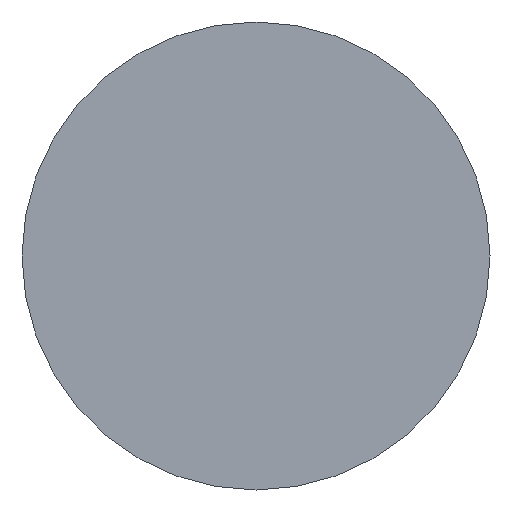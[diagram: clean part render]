
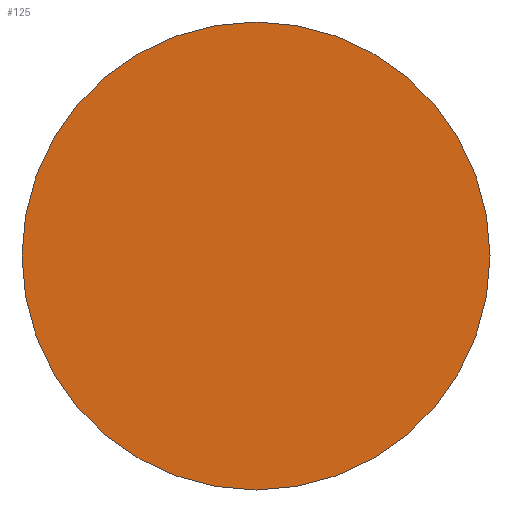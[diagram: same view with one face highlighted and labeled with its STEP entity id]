
A CAD part, left-side view. The second image highlights one B-rep face of the part: STEP entity #125.
In plain terms, the highlighted planar face has unit normal (-1, 0, 0).
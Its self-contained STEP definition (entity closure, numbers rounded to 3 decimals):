
#6 = CIRCLE ( 'NONE', #131, 8. ) ;
#43 = ORIENTED_EDGE ( 'NONE', *, *, #102, .F. ) ;
#75 = DIRECTION ( 'NONE',  ( 1., 0., 0. ) ) ;
#87 = ORIENTED_EDGE ( 'NONE', *, *, #89, .F. ) ;
#88 = CIRCLE ( 'NONE', #150, 8. ) ;
#89 = EDGE_CURVE ( 'NONE', #138, #126, #88, .T. ) ;
#91 = EDGE_LOOP ( 'NONE', ( #87, #43 ) ) ;
#93 = CARTESIAN_POINT ( 'NONE',  ( 0., 0., 0. ) ) ;
#100 = CARTESIAN_POINT ( 'NONE',  ( 0., 0., 0. ) ) ;
#102 = EDGE_CURVE ( 'NONE', #126, #138, #6, .T. ) ;
#106 = PLANE ( 'NONE',  #160 ) ;
#117 = CARTESIAN_POINT ( 'NONE',  ( 0., -8., 0. ) ) ;
#125 = ADVANCED_FACE ( 'NONE', ( #169 ), #106, .T. ) ;
#126 = VERTEX_POINT ( 'NONE', #117 ) ;
#131 = AXIS2_PLACEMENT_3D ( 'NONE', #100, #205, #255 ) ;
#138 = VERTEX_POINT ( 'NONE', #252 ) ;
#144 = DIRECTION ( 'NONE',  ( 0., -1., 0. ) ) ;
#150 = AXIS2_PLACEMENT_3D ( 'NONE', #211, #75, #256 ) ;
#160 = AXIS2_PLACEMENT_3D ( 'NONE', #93, #172, #144 ) ;
#169 = FACE_OUTER_BOUND ( 'NONE', #91, .T. ) ;
#172 = DIRECTION ( 'NONE',  ( -1., 0., 0. ) ) ;
#205 = DIRECTION ( 'NONE',  ( 1., 0., 0. ) ) ;
#211 = CARTESIAN_POINT ( 'NONE',  ( 0., 0., 0. ) ) ;
#252 = CARTESIAN_POINT ( 'NONE',  ( 0., 8., 0. ) ) ;
#255 = DIRECTION ( 'NONE',  ( 0., 1., 0. ) ) ;
#256 = DIRECTION ( 'NONE',  ( 0., 1., 0. ) ) ;
